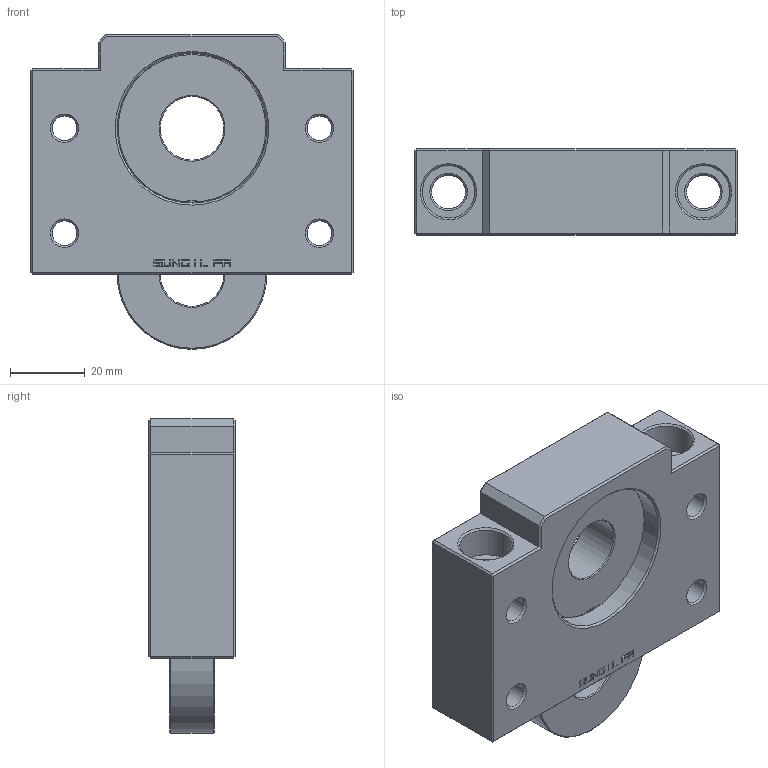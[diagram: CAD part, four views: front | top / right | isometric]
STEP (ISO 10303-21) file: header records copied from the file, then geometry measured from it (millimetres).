
FILE_DESCRIPTION( ( 'Unknown' ), '1' );
FILE_NAME( 'D:/3D/憮んお嶸棉/20060119/SBF TYPE/SBF17/SBF17(ASSM).stp', 'Unknown', ( 'Unknown' ), ( 'Unknown' ), 'XStep 1.0', 'Unknown', ' ' );
FILE_SCHEMA( ( 'CONFIG_CONTROL_DESIGN' ) );
Length unit declared in the file: millimetre
Products named in the file (3): Assem1; SBF17(housing); bearing(6003ZZ)
Bounding box: 86 x 23 x 84 mm (x, y, z)
Surface area: 50509 mm2
Topology: 4 solids, 4 shells, 798 faces, 2166 edges, 1416 vertices
Faces by surface type: plane 424, cylinder 334, cone 40
Full cylindrical faces by diameter (mm): 6.6 x16, 9 x4, 14 x4, 17 x2, 40 x4
Entity records: 13012 total; most frequent: CARTESIAN_POINT 2658, DIRECTION 2180, ORIENTED_EDGE 2076, EDGE_CURVE 1038, AXIS2_PLACEMENT_3D 748, VERTEX_POINT 698, LINE 684, VECTOR 684
